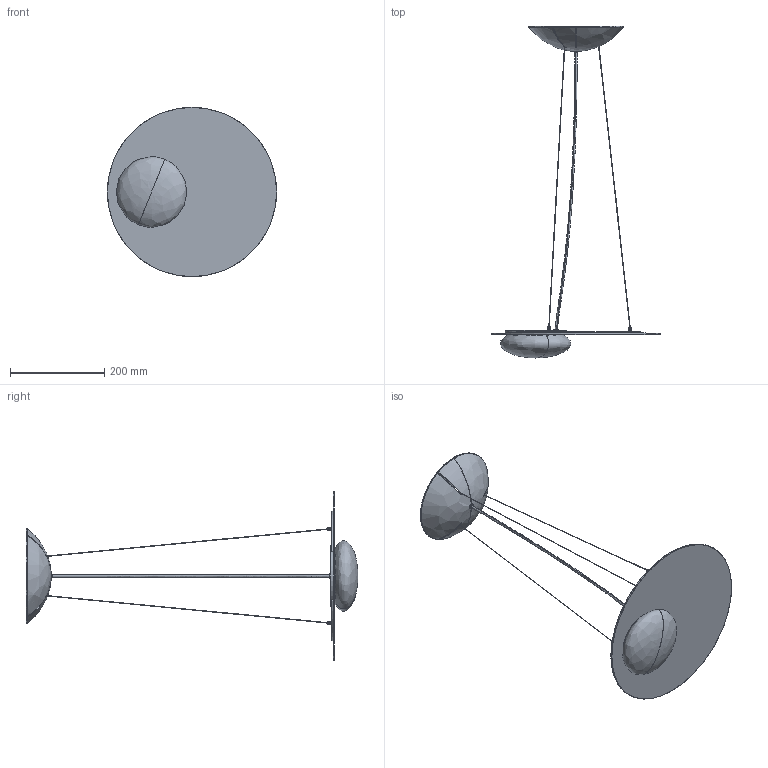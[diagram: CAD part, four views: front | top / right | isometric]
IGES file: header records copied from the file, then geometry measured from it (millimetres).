
Start section: SolidWorks IGES file using analytic representation for surfaces
Global section: file name: D:\OneDrive\Projects\AXO069 KWIC\DRAW\3D\STEP-IGES\KWIC_Suspension_360.IGS; native system: SolidWorks 2019; preprocessor: SolidWorks 2019; author: tecnico8; date: 190725.153126; units: millimetre
Bounding box: 360 x 706 x 360 mm (x, y, z)
Surface area: 548115.9 mm2 (no closed solid volume)
Topology: 0 solids, 0 shells, 657 faces, 8702 edges, 8700 vertices
Faces by surface type: revolution 360, bspline 297
